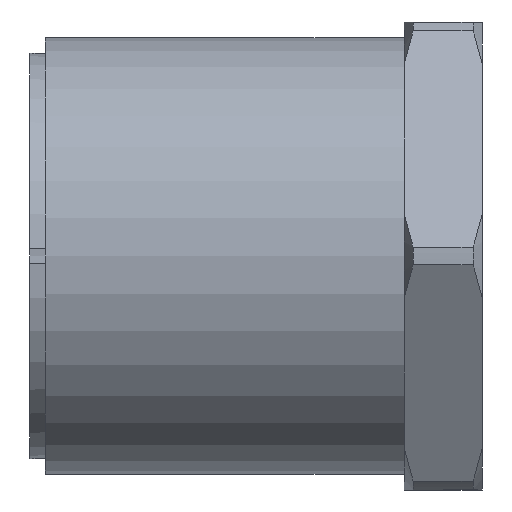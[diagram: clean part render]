
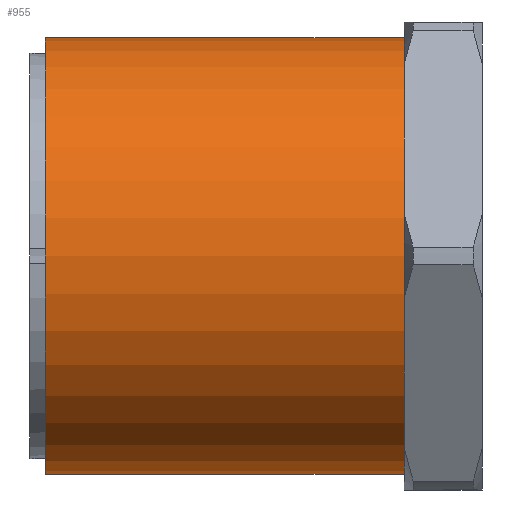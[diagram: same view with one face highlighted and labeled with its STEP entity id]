
A CAD part, front view. The second image highlights one B-rep face of the part: STEP entity #955.
In plain terms, the highlighted cylindrical face has radius 14 mm (diameter 28 mm), a partial arc.
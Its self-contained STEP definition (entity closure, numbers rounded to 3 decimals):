
#16 = CARTESIAN_POINT ( 'NONE',  ( 0., 0., -14. ) ) ;
#26 = DIRECTION ( 'NONE',  ( 0., 0., 1. ) ) ;
#96 = DIRECTION ( 'NONE',  ( 0., 0., 1. ) ) ;
#97 = DIRECTION ( 'NONE',  ( -1., 0., 0. ) ) ;
#98 = CARTESIAN_POINT ( 'NONE',  ( 0., 0., 0. ) ) ;
#108 = VERTEX_POINT ( 'NONE', #16 ) ;
#147 = VERTEX_POINT ( 'NONE', #708 ) ;
#153 = VERTEX_POINT ( 'NONE', #705 ) ;
#203 = DIRECTION ( 'NONE',  ( -1., 0., 0. ) ) ;
#204 = CARTESIAN_POINT ( 'NONE',  ( 0., 0., 14. ) ) ;
#207 = VERTEX_POINT ( 'NONE', #668 ) ;
#234 = DIRECTION ( 'NONE',  ( -1., 0., 0. ) ) ;
#235 = CARTESIAN_POINT ( 'NONE',  ( 0., 0., -14. ) ) ;
#447 = DIRECTION ( 'NONE',  ( -1., 0., 0. ) ) ;
#550 = CARTESIAN_POINT ( 'NONE',  ( 0., 0., 0. ) ) ;
#551 = DIRECTION ( 'NONE',  ( -1., 0., 0. ) ) ;
#555 = DIRECTION ( 'NONE',  ( 0., 0., 1. ) ) ;
#668 = CARTESIAN_POINT ( 'NONE',  ( 0., 0., 14. ) ) ;
#683 = CARTESIAN_POINT ( 'NONE',  ( 23., 0., 0. ) ) ;
#705 = CARTESIAN_POINT ( 'NONE',  ( 23., 0., 14. ) ) ;
#708 = CARTESIAN_POINT ( 'NONE',  ( 23., 0., -14. ) ) ;
#766 = CIRCLE ( 'NONE', #1490, 14. ) ;
#788 = LINE ( 'NONE', #204, #792 ) ;
#792 = VECTOR ( 'NONE', #203, 1000. ) ;
#801 = VECTOR ( 'NONE', #234, 1000. ) ;
#803 = LINE ( 'NONE', #235, #801 ) ;
#835 = EDGE_LOOP ( 'NONE', ( #1063, #1089, #1031, #1124 ) ) ;
#955 = ADVANCED_FACE ( 'NONE', ( #1104 ), #1097, .T. ) ;
#1031 = ORIENTED_EDGE ( 'NONE', *, *, #1474, .T. ) ;
#1063 = ORIENTED_EDGE ( 'NONE', *, *, #1463, .F. ) ;
#1089 = ORIENTED_EDGE ( 'NONE', *, *, #1628, .T. ) ;
#1097 = CYLINDRICAL_SURFACE ( 'NONE', #1562, 14. ) ;
#1104 = FACE_OUTER_BOUND ( 'NONE', #835, .T. ) ;
#1124 = ORIENTED_EDGE ( 'NONE', *, *, #1498, .F. ) ;
#1339 = CIRCLE ( 'NONE', #1465, 14. ) ;
#1463 = EDGE_CURVE ( 'NONE', #147, #108, #803, .T. ) ;
#1465 = AXIS2_PLACEMENT_3D ( 'NONE', #683, #447, #26 ) ;
#1474 = EDGE_CURVE ( 'NONE', #153, #207, #788, .T. ) ;
#1490 = AXIS2_PLACEMENT_3D ( 'NONE', #98, #97, #96 ) ;
#1498 = EDGE_CURVE ( 'NONE', #108, #207, #766, .T. ) ;
#1562 = AXIS2_PLACEMENT_3D ( 'NONE', #550, #551, #555 ) ;
#1628 = EDGE_CURVE ( 'NONE', #147, #153, #1339, .T. ) ;
